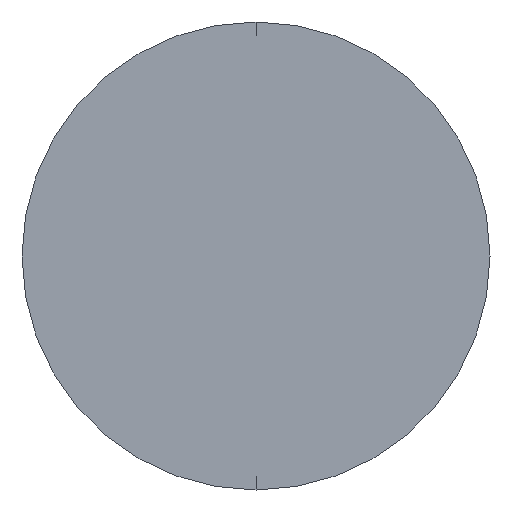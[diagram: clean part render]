
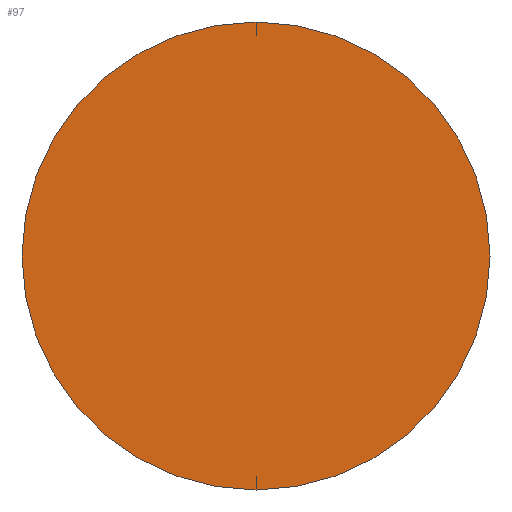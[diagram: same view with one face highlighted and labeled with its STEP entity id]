
A CAD part, left-side view. The second image highlights one B-rep face of the part: STEP entity #97.
In plain terms, the highlighted planar face has unit normal (-1, 0, 0).
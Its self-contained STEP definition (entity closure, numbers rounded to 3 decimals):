
#3 = EDGE_LOOP ( 'NONE', ( #63, #80 ) ) ;
#28 = DIRECTION ( 'NONE',  ( 0., 0., 1. ) ) ;
#29 = DIRECTION ( 'NONE',  ( 0., 0., -1. ) ) ;
#43 = AXIS2_PLACEMENT_3D ( 'NONE', #284, #292, #28 ) ;
#58 = PLANE ( 'NONE',  #193 ) ;
#63 = ORIENTED_EDGE ( 'NONE', *, *, #81, .T. ) ;
#65 = CARTESIAN_POINT ( 'NONE',  ( 0., 0., 0. ) ) ;
#71 = CIRCLE ( 'NONE', #195, 1.4 ) ;
#75 = FACE_OUTER_BOUND ( 'NONE', #3, .T. ) ;
#80 = ORIENTED_EDGE ( 'NONE', *, *, #198, .T. ) ;
#81 = EDGE_CURVE ( 'NONE', #235, #111, #109, .T. ) ;
#97 = ADVANCED_FACE ( 'NONE', ( #75 ), #58, .F. ) ;
#104 = DIRECTION ( 'NONE',  ( -1., 0., 0. ) ) ;
#109 = CIRCLE ( 'NONE', #43, 1.4 ) ;
#111 = VERTEX_POINT ( 'NONE', #274 ) ;
#133 = DIRECTION ( 'NONE',  ( 0., 0., 1. ) ) ;
#193 = AXIS2_PLACEMENT_3D ( 'NONE', #275, #205, #29 ) ;
#195 = AXIS2_PLACEMENT_3D ( 'NONE', #65, #104, #133 ) ;
#198 = EDGE_CURVE ( 'NONE', #111, #235, #71, .T. ) ;
#205 = DIRECTION ( 'NONE',  ( 1., 0., 0. ) ) ;
#209 = CARTESIAN_POINT ( 'NONE',  ( 0., 0., 1.4 ) ) ;
#235 = VERTEX_POINT ( 'NONE', #209 ) ;
#274 = CARTESIAN_POINT ( 'NONE',  ( 0., 0., -1.4 ) ) ;
#275 = CARTESIAN_POINT ( 'NONE',  ( 0., 0., 0. ) ) ;
#284 = CARTESIAN_POINT ( 'NONE',  ( 0., 0., 0. ) ) ;
#292 = DIRECTION ( 'NONE',  ( -1., 0., 0. ) ) ;
